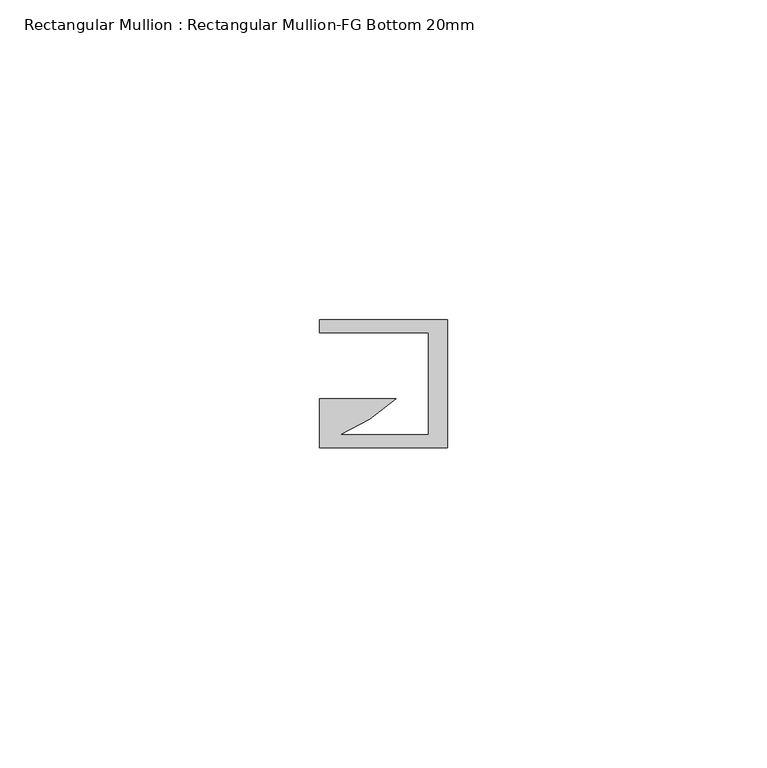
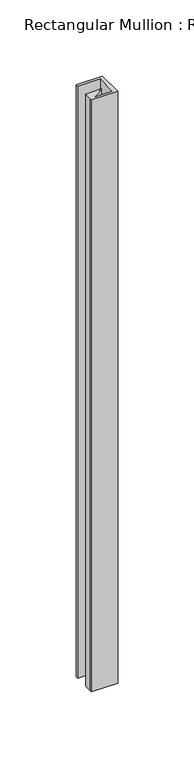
"""IFC4 building model written with IfcOpenShell, lengths in millimetres: member geometry, Rectangular Mullion : Rectangular Mullion-FG Bottom 20mm."""

from ifc_helpers import new_model, si_unit, point, frame, frame_2d, origin, place, context, project, spatial, polyline, circle_curve, trimmed, segment, composite_curve, outline, extrude, source, transform, mapped, element, save


def rectangular_mullion_rectangular_mullion_fg_bottom_20mm_f2c6a49c(model_context):
    return source(origin(), model_context, "Body", "SweptSolid", [
        extrude(outline(composite_curve([segment(polyline([(0.0, -0.001), (0.0, -20.001), (-20.0, -20.001), (-20.0, -18.001), (-20.0, -12.381), (-8.0121425, -12.381)]), True, "CONTINUOUS"), segment(trimmed(circle_curve(frame_2d((-28.5616269, 10.0319926)), 30.4076232), [point((-8.0121425, -12.381))], [point((-16.7813522, -18.001))], False, "CARTESIAN"), True, "CONTINUOUS"), segment(polyline([(-16.7813522, -18.001), (-3.0, -18.001), (-3.0, -2.001), (-20.0, -2.001), (-20.0, -0.001), (0.0, -0.001)]), True, "CONTINUOUS")], self_intersect=False)), frame((0.0, 0.0, -474.7965432), z_axis=(0.0, 0.0, 1.0), x_axis=(1.0, 0.0, 0.0)), (0.0, 0.0, 1.0), 474.7965432),
    ])


if __name__ == "__main__":
    model = new_model("IFC4")
    model_context = context("Model", 3, world=origin())
    ifc_project = project(units=[si_unit("LENGTHUNIT", "METRE", prefix="MILLI")], contexts=[model_context])
    site = spatial("IfcSite", under=ifc_project)
    building = spatial("IfcBuilding", under=site)
    placement = place(None, origin())
    rectangular_mullion_rectangular_mullion_fg_bottom_20mm_shape = rectangular_mullion_rectangular_mullion_fg_bottom_20mm_f2c6a49c(model_context)
    element("IfcMember", 1, ObjectType="Rectangular Mullion : Rectangular Mullion-FG Bottom 20mm", at=placement, inside=building, context=model_context, shape_type="MappedRepresentation", body=[
        mapped(rectangular_mullion_rectangular_mullion_fg_bottom_20mm_shape, transform((0.0, 0.0, 0.0), x_axis=(1.0, 0.0, 0.0), y_axis=(0.0, 1.0, 0.0), z_axis=(0.0, 0.0, 1.0))),
    ])
    save(model, "model.ifc")
